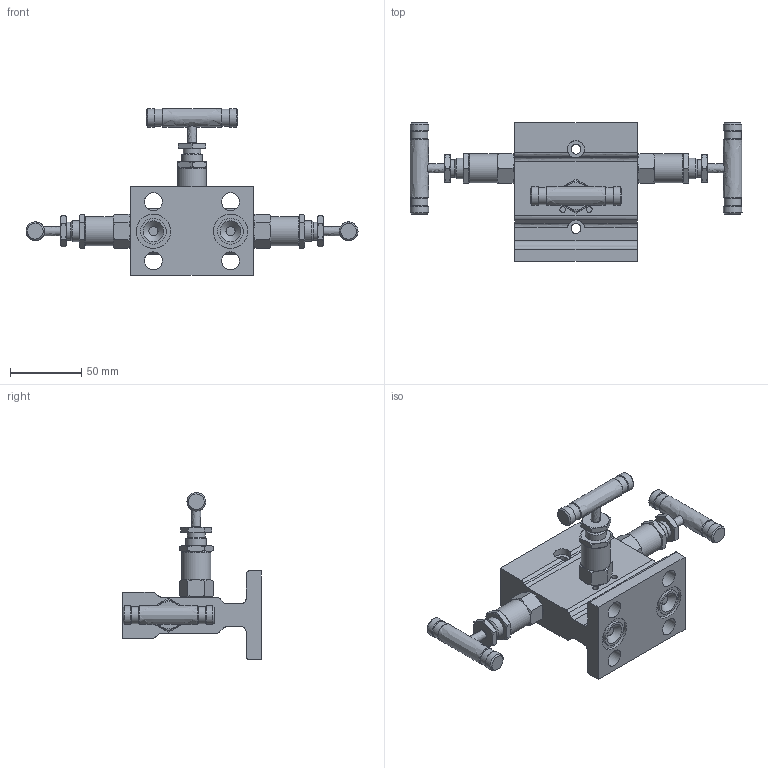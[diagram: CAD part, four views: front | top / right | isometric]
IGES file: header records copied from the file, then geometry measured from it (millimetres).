
Global section: file name: SM3VF-F-8N-S316; native system: Autodesk Inventor 2016; preprocessor: unknown; author: 이승민,,11,0; organization: 20161214.091157; date: 20161216.192217; units: millimetre
Bounding box: 232.52 x 97 x 116.96 mm (x, y, z)
Volume: 292330.6 mm3; surface area: 64584.2 mm2
Topology: 4 solids, 4 shells, 351 faces, 871 edges, 568 vertices
Faces by surface type: bspline 351
